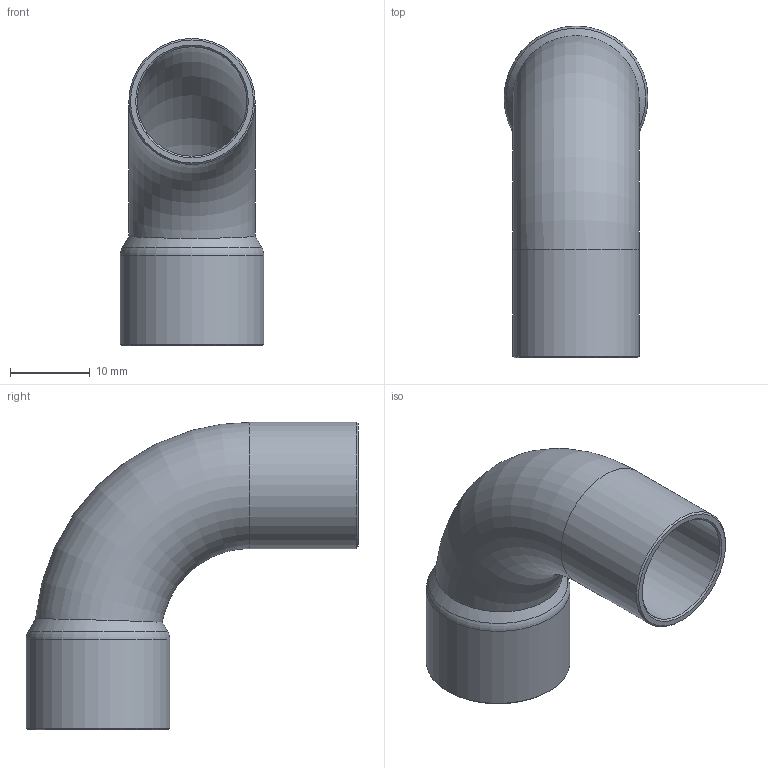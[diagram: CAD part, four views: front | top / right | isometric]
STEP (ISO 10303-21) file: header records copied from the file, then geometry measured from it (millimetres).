
FILE_DESCRIPTION((''),'2;1');
FILE_NAME('G:\SANHA-Ternat\Technik\Management\Bouwmaten + markeringen\z-maattekeningen 3D\29000s\29001A58_3d.stp','2017-07-26T09:51:52',('vdvijverd'),(''),'Autodesk Inventor 2009','Autodesk Inventor 2009','');
FILE_SCHEMA(('AUTOMOTIVE_DESIGN { 1 0 10303 214 1 1 1 1 }'));
Length unit declared in the file: millimetre
Products named in the file (1): 29001A58_3d
Bounding box: 18.09 x 41.75 x 38.63 mm (x, y, z)
Volume: 2801.8 mm3; surface area: 5426 mm2
Topology: 1 solids, 1 shells, 16 faces, 33 edges, 19 vertices
Faces by surface type: cone 6, cylinder 4, torus 3, plane 2, bspline 1
Full cylindrical faces by diameter (mm): 13.77 x1, 15.87 x1, 15.995 x1, 18.095 x1
Entity records: 460 total; most frequent: CARTESIAN_POINT 165, DIRECTION 60, ORIENTED_EDGE 32, EDGE_LOOP 32, AXIS2_PLACEMENT_3D 30, VERTEX_POINT 16, EDGE_CURVE 16, FACE_OUTER_BOUND 16
